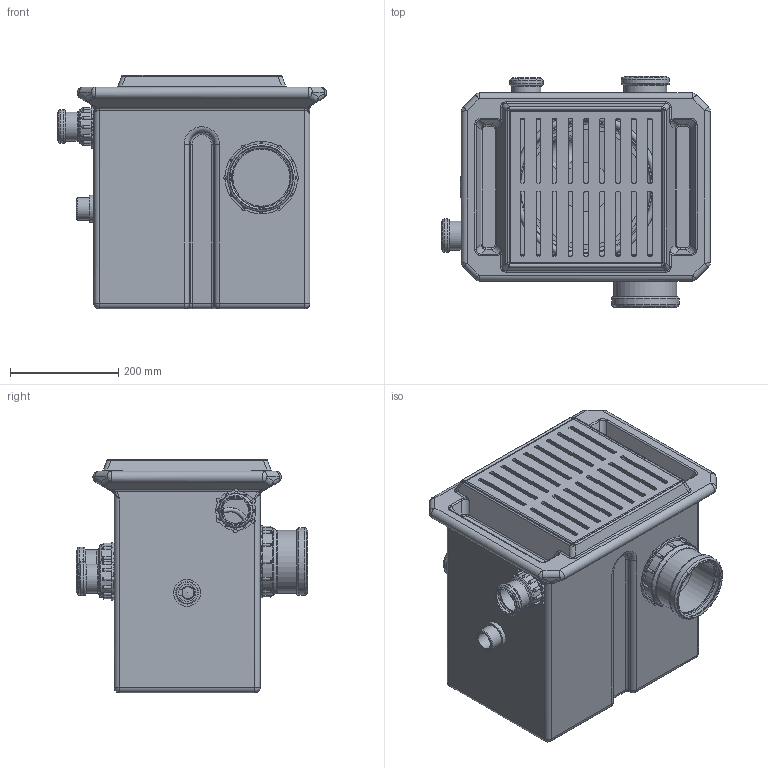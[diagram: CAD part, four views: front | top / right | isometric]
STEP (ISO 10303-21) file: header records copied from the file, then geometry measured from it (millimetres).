
FILE_DESCRIPTION(/* description */ (''),/* implementation_level */ '2;1');
FILE_NAME(/* name */ 'E:\Arbeitsordner\Arbeitsprojekte\Schmutzwasser_Hebeanlagen\UFB200\11513_UFB200_35\11513_UFB200_35.stp',/* time_stamp */ '2020-10-07T15:15:38+02:00',/* author */ ('mbrueckel'),/* organization */ (''),/* preprocessor_version */ 'ST-DEVELOPER v17.2',/* originating_system */ 'Autodesk Inventor 2019',/* authorisation */ '');
FILE_SCHEMA (('AUTOMOTIVE_DESIGN { 1 0 10303 214 3 1 1 }'));
Products named in the file (37): 010_00_000; 11519_Sammelbehälter_UFB; 11516_Sammelbehälter_UFB_kompl; 010_01_012; 010_01_011_a; 010_01_014_R; 010_01_010_a; 11540_ZPK_35A_UFB200; 13022_ZPK_35; Motoraufnahmegehäuse; 207.01; 228.03.002; 228.03.001; Kabel_ZPK; 024_01_010; 13146; 024_01_011; 10373_Distanzstück-PE_D10x10x6; 10508_Zugentlastungsschelle_für_Schwimmerkonsole; DIN 125 - A 6,4; ISO 4762  - M6 x 20; DIN 985 - M6; ANSI B18.6.4 - Nr. 4 - 24 - 5/8; ANSI B18.6.4 - Nr. 4 - 24 - 3/8; Schwimmerkabel_(11540_ZPK); 13422_PE-Platte_200x149_UFB; RSK_1¼Z_(20155_Drain_Inox); schmalz_10_07_10_00004_7fmki6vs5ypgiyk4byhp9dkub_01; 11365_PVC-Schlauch_glasklar_1_1-4Z_I32A40_L=0,06m; 301_08_003_a; 301_08_001_b; ZE1613; 16670_Rohrschutzkappe_GPN250-102; 11526_O-Ring_246x12_Moosgummi; 11495_Zulaufstutzen_Kunstst_DN70_UFB; 11494_Zulaufstutzen_Kunstst_DN50_UFB; 11496_Zulaufstutzen_Kunstst_DN100_UFB
Assembly tree (47 placements, depth 4):
  010_00_000
    11519_Sammelbehälter_UFB
      11516_Sammelbehälter_UFB_kompl
        010_01_012
        010_01_011_a
        010_01_014_R
      010_01_010_a
    11540_ZPK_35A_UFB200
      13022_ZPK_35
        Motoraufnahmegehäuse
        207.01
        228.03.002
        228.03.001
        Kabel_ZPK
      024_01_010
      13146
      024_01_011
      10373_Distanzstück-PE_D10x10x6
      10508_Zugentlastungsschelle_für_Schwimmerkonsole
      DIN 125 - A 6,4  x2
      ISO 4762  - M6 x 20
      DIN 985 - M6
      ANSI B18.6.4 - Nr. 4 - 24 - 5/8  x6
      ANSI B18.6.4 - Nr. 4 - 24 - 3/8  x2
      Schwimmerkabel_(11540_ZPK)
    13422_PE-Platte_200x149_UFB
    RSK_1¼Z_(20155_Drain_Inox)
    schmalz_10_07_10_00004_7fmki6vs5ypgiyk4byhp9dkub_01  x2
    11365_PVC-Schlauch_glasklar_1_1-4Z_I32A40_L=0,06m
    301_08_003_a  x2
    301_08_001_b  x2
    11494_Zulaufstutzen_Kunstst_DN50_UFB  x2
    ZE1613
    16670_Rohrschutzkappe_GPN250-102
    11526_O-Ring_246x12_Moosgummi
    11495_Zulaufstutzen_Kunstst_DN70_UFB
    11496_Zulaufstutzen_Kunstst_DN100_UFB
Bounding box: 497.57 x 428 x 432 mm (x, y, z)
Volume: 7789529.9 mm3; surface area: 3140905 mm2
Topology: 59 solids, 60 shells, 2907 faces, 7937 edges, 5079 vertices
Faces by surface type: plane 1116, cylinder 906, cone 258, bspline 256, torus 246, sphere 125
Full cylindrical faces by diameter (mm): 2.845 x8, 3.2 x2, 3.5 x6, 4.5 x2, 4.917 x1, 5 x6, 5.5 x6, 6 x2, 6.4 x2, 6.5 x2, 6.528 x8, 6.9 x1, 8 x8, 8.5 x2, 9.9 x1, 10 x2, 10.5 x1, 12 x3, 17.6 x1, 21 x3, 22 x1, 24 x4, 29 x1, 30 x4, 32 x4, 33 x2, 34 x2, 35 x1, 38 x1, 38.5 x2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
Entity records: 92384 total; most frequent: CARTESIAN_POINT 27975, DIRECTION 13626, ORIENTED_EDGE 13314, EDGE_CURVE 6657, AXIS2_PLACEMENT_3D 5351, VERTEX_POINT 4286, LINE 2924, VECTOR 2924
